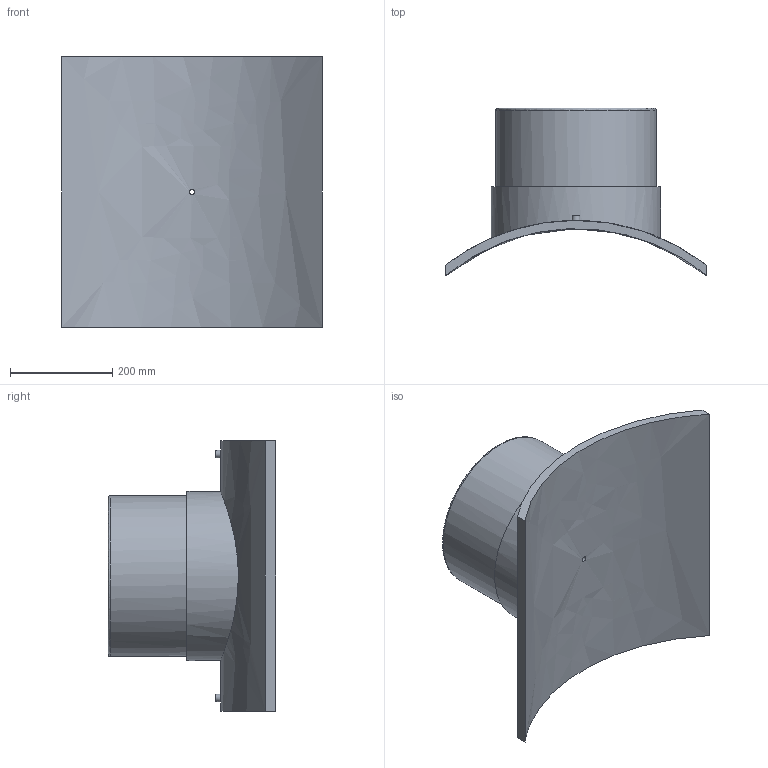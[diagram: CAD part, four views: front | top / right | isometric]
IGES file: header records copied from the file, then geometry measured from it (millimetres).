
Global section: file name: 495803800315T; native system: Autodesk Inventor 2019; preprocessor: unknown; author: KIM; date: 20240404.115747; units: millimetre
Bounding box: 510 x 327.82 x 530 mm (x, y, z)
Volume: 11859949.7 mm3; surface area: 1050720.1 mm2
Topology: 1 solids, 1 shells, 29 faces, 60 edges, 43 vertices
Faces by surface type: bspline 29
